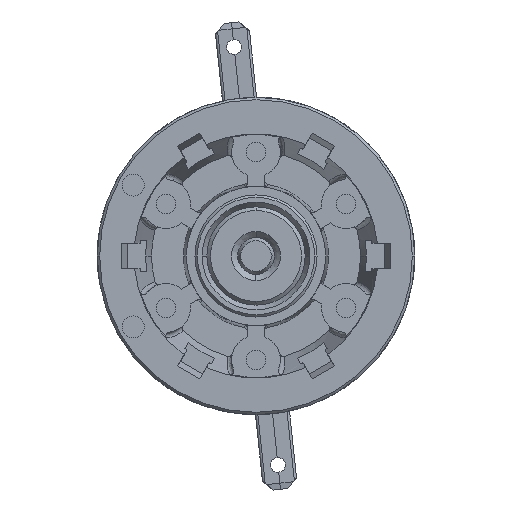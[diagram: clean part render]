
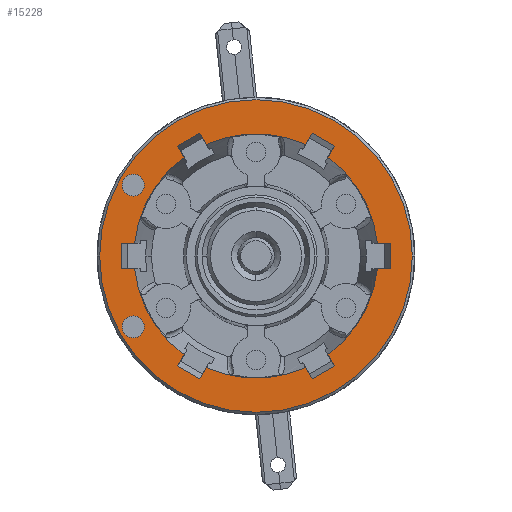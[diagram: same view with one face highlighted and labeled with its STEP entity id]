
A CAD part, left-side view. The second image highlights one B-rep face of the part: STEP entity #15228.
In plain terms, the highlighted planar face has unit normal (-1, 0, 0).
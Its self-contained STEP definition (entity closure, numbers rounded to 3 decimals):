
#5106=CARTESIAN_POINT('',(-1.6,9.945,1.05));
#5116=CARTESIAN_POINT('',(-1.6,0.,0.));
#5117=DIRECTION('',(1.,0.,0.));
#5118=DIRECTION('',(0.,0.994,0.105));
#5119=AXIS2_PLACEMENT_3D('',#5116,#5117,#5118);
#5170=CARTESIAN_POINT('',(-1.6,4.063,9.137));
#5180=CARTESIAN_POINT('',(-1.6,0.,0.));
#5181=DIRECTION('',(1.,0.,0.));
#5182=DIRECTION('',(0.,0.406,0.914));
#5183=AXIS2_PLACEMENT_3D('',#5180,#5181,#5182);
#5234=CARTESIAN_POINT('',(-1.6,-5.882,8.087));
#5244=CARTESIAN_POINT('',(-1.6,0.,0.));
#5245=DIRECTION('',(1.,0.,0.));
#5246=DIRECTION('',(0.,-0.588,0.809));
#5247=AXIS2_PLACEMENT_3D('',#5244,#5245,#5246);
#5308=CARTESIAN_POINT('',(-1.6,0.,0.));
#5309=DIRECTION('',(-1.,0.,0.));
#5310=DIRECTION('',(0.,0.994,-0.105));
#5311=AXIS2_PLACEMENT_3D('',#5308,#5309,#5310);
#5321=CARTESIAN_POINT('',(-1.6,9.945,-1.05));
#5448=CARTESIAN_POINT('',(-1.6,-9.945,-1.05));
#5458=CARTESIAN_POINT('',(-1.6,0.,0.));
#5459=DIRECTION('',(-1.,0.,0.));
#5460=DIRECTION('',(0.,-0.588,-0.809));
#5461=AXIS2_PLACEMENT_3D('',#5458,#5459,#5460);
#5512=CARTESIAN_POINT('',(-1.6,-4.063,-9.137));
#5522=CARTESIAN_POINT('',(-1.6,0.,0.));
#5523=DIRECTION('',(-1.,0.,0.));
#5524=DIRECTION('',(0.,0.406,-0.914));
#5525=AXIS2_PLACEMENT_3D('',#5522,#5523,#5524);
#5593=CARTESIAN_POINT('',(-1.6,0.,0.));
#5594=DIRECTION('',(-1.,0.,0.));
#5595=DIRECTION('',(0.,1.,0.));
#5596=AXIS2_PLACEMENT_3D('',#5593,#5594,#5595);
#5601=CARTESIAN_POINT('',(-1.6,0.,0.));
#5602=DIRECTION('',(-1.,0.,0.));
#5603=DIRECTION('',(0.,-1.,0.));
#5604=AXIS2_PLACEMENT_3D('',#5601,#5602,#5603);
#5609=CARTESIAN_POINT('',(-1.6,10.05,5.8));
#5610=DIRECTION('',(-1.,0.,0.));
#5611=DIRECTION('',(0.,0.,1.));
#5612=AXIS2_PLACEMENT_3D('',#5609,#5610,#5611);
#5617=CARTESIAN_POINT('',(-1.6,10.05,5.8));
#5618=DIRECTION('',(-1.,0.,0.));
#5619=DIRECTION('',(0.,0.,-1.));
#5620=AXIS2_PLACEMENT_3D('',#5617,#5618,#5619);
#5625=CARTESIAN_POINT('',(-1.6,10.05,-5.8));
#5626=DIRECTION('',(-1.,0.,0.));
#5627=DIRECTION('',(0.,0.,1.));
#5628=AXIS2_PLACEMENT_3D('',#5625,#5626,#5627);
#5633=CARTESIAN_POINT('',(-1.6,10.05,-5.8));
#5634=DIRECTION('',(-1.,0.,0.));
#5635=DIRECTION('',(0.,0.,-1.));
#5636=AXIS2_PLACEMENT_3D('',#5633,#5634,#5635);
#5641=DIRECTION('',(0.,-0.5,0.866));
#5642=VECTOR('',#5641,1.055);
#5643=CARTESIAN_POINT('',(-1.6,4.591,-10.051));
#5644=LINE('',#5643,#5642);
#5648=DIRECTION('',(0.,-0.5,-0.866));
#5649=VECTOR('',#5648,1.055);
#5650=CARTESIAN_POINT('',(-1.6,-4.063,-9.137));
#5651=LINE('',#5650,#5649);
#5655=DIRECTION('',(0.,0.866,-0.5));
#5656=VECTOR('',#5655,2.1);
#5657=CARTESIAN_POINT('',(-1.6,-6.409,-9.001));
#5658=LINE('',#5657,#5656);
#5662=DIRECTION('',(0.,0.5,0.866));
#5663=VECTOR('',#5662,1.055);
#5664=CARTESIAN_POINT('',(-1.6,-6.409,-9.001));
#5665=LINE('',#5664,#5663);
#5669=DIRECTION('',(0.,-1.,0.));
#5670=VECTOR('',#5669,1.055);
#5671=CARTESIAN_POINT('',(-1.6,-9.945,-1.05));
#5672=LINE('',#5671,#5670);
#5676=DIRECTION('',(0.,0.,-1.));
#5677=VECTOR('',#5676,2.1);
#5678=CARTESIAN_POINT('',(-1.6,-11.,1.05));
#5679=LINE('',#5678,#5677);
#5683=DIRECTION('',(0.,1.,0.));
#5684=VECTOR('',#5683,1.055);
#5685=CARTESIAN_POINT('',(-1.6,-11.,1.05));
#5686=LINE('',#5685,#5684);
#5690=DIRECTION('',(0.,-0.5,0.866));
#5691=VECTOR('',#5690,1.055);
#5692=CARTESIAN_POINT('',(-1.6,-5.882,8.087));
#5693=LINE('',#5692,#5691);
#5697=DIRECTION('',(0.,-0.866,-0.5));
#5698=VECTOR('',#5697,2.1);
#5699=CARTESIAN_POINT('',(-1.6,-4.591,10.051));
#5700=LINE('',#5699,#5698);
#5704=DIRECTION('',(0.,0.5,-0.866));
#5705=VECTOR('',#5704,1.055);
#5706=CARTESIAN_POINT('',(-1.6,-4.591,10.051));
#5707=LINE('',#5706,#5705);
#5711=DIRECTION('',(0.,0.5,0.866));
#5712=VECTOR('',#5711,1.055);
#5713=CARTESIAN_POINT('',(-1.6,4.063,9.137));
#5714=LINE('',#5713,#5712);
#5718=DIRECTION('',(0.,-0.866,0.5));
#5719=VECTOR('',#5718,2.1);
#5720=CARTESIAN_POINT('',(-1.6,6.409,9.001));
#5721=LINE('',#5720,#5719);
#5725=DIRECTION('',(0.,-0.5,-0.866));
#5726=VECTOR('',#5725,1.055);
#5727=CARTESIAN_POINT('',(-1.6,6.409,9.001));
#5728=LINE('',#5727,#5726);
#5732=DIRECTION('',(0.,1.,0.));
#5733=VECTOR('',#5732,1.055);
#5734=CARTESIAN_POINT('',(-1.6,9.945,1.05));
#5735=LINE('',#5734,#5733);
#5739=DIRECTION('',(0.,0.,1.));
#5740=VECTOR('',#5739,2.1);
#5741=CARTESIAN_POINT('',(-1.6,11.,-1.05));
#5742=LINE('',#5741,#5740);
#5746=DIRECTION('',(0.,-1.,0.));
#5747=VECTOR('',#5746,1.055);
#5748=CARTESIAN_POINT('',(-1.6,11.,-1.05));
#5749=LINE('',#5748,#5747);
#5753=DIRECTION('',(0.,0.5,-0.866));
#5754=VECTOR('',#5753,1.055);
#5755=CARTESIAN_POINT('',(-1.6,5.882,-8.087));
#5756=LINE('',#5755,#5754);
#5760=DIRECTION('',(0.,0.866,0.5));
#5761=VECTOR('',#5760,2.1);
#5762=CARTESIAN_POINT('',(-1.6,4.591,-10.051));
#5763=LINE('',#5762,#5761);
#9136=CARTESIAN_POINT('',(-1.6,12.8,0.));
#9137=CARTESIAN_POINT('',(-1.6,-12.8,0.));
#9138=VERTEX_POINT('',#9136);
#9139=VERTEX_POINT('',#9137);
#9152=CARTESIAN_POINT('',(-1.6,10.05,6.7));
#9153=CARTESIAN_POINT('',(-1.6,10.05,4.9));
#9154=VERTEX_POINT('',#9152);
#9155=VERTEX_POINT('',#9153);
#9156=CARTESIAN_POINT('',(-1.6,10.05,-4.9));
#9157=CARTESIAN_POINT('',(-1.6,10.05,-6.7));
#9158=VERTEX_POINT('',#9156);
#9159=VERTEX_POINT('',#9157);
#9386=VERTEX_POINT('',#5106);
#9387=VERTEX_POINT('',#5321);
#9388=CARTESIAN_POINT('',(-1.6,11.,-1.05));
#9389=VERTEX_POINT('',#9388);
#9390=CARTESIAN_POINT('',(-1.6,11.,1.05));
#9391=VERTEX_POINT('',#9390);
#9476=CARTESIAN_POINT('',(-1.6,5.882,8.087));
#9477=VERTEX_POINT('',#9476);
#9482=VERTEX_POINT('',#5170);
#9483=CARTESIAN_POINT('',(-1.6,6.409,9.001));
#9484=VERTEX_POINT('',#9483);
#9485=CARTESIAN_POINT('',(-1.6,4.591,10.051));
#9486=VERTEX_POINT('',#9485);
#9491=CARTESIAN_POINT('',(-1.6,-4.063,9.137));
#9492=VERTEX_POINT('',#9491);
#9497=VERTEX_POINT('',#5234);
#9498=CARTESIAN_POINT('',(-1.6,-4.591,10.051));
#9499=VERTEX_POINT('',#9498);
#9500=CARTESIAN_POINT('',(-1.6,-6.409,9.001));
#9501=VERTEX_POINT('',#9500);
#9508=CARTESIAN_POINT('',(-1.6,-9.945,1.05));
#9509=VERTEX_POINT('',#9508);
#9518=VERTEX_POINT('',#5448);
#9519=CARTESIAN_POINT('',(-1.6,-11.,1.05));
#9520=VERTEX_POINT('',#9519);
#9521=CARTESIAN_POINT('',(-1.6,-11.,-1.05));
#9522=VERTEX_POINT('',#9521);
#9527=CARTESIAN_POINT('',(-1.6,-5.882,-8.087));
#9528=VERTEX_POINT('',#9527);
#9533=VERTEX_POINT('',#5512);
#9534=CARTESIAN_POINT('',(-1.6,-6.409,-9.001));
#9535=VERTEX_POINT('',#9534);
#9536=CARTESIAN_POINT('',(-1.6,-4.591,-10.051));
#9537=VERTEX_POINT('',#9536);
#9542=CARTESIAN_POINT('',(-1.6,5.882,-8.087));
#9543=VERTEX_POINT('',#9542);
#9544=CARTESIAN_POINT('',(-1.6,4.063,-9.137));
#9545=VERTEX_POINT('',#9544);
#9550=CARTESIAN_POINT('',(-1.6,4.591,-10.051));
#9551=VERTEX_POINT('',#9550);
#9552=CARTESIAN_POINT('',(-1.6,6.409,-9.001));
#9553=VERTEX_POINT('',#9552);
#15163=CARTESIAN_POINT('',(-1.6,0.,0.));
#15164=DIRECTION('',(1.,0.,0.));
#15165=DIRECTION('',(0.,-1.,0.));
#15166=AXIS2_PLACEMENT_3D('',#15163,#15164,#15165);
#15167=PLANE('',#15166);
#15169=ORIENTED_EDGE('',*,*,#15168,.F.);
#15171=ORIENTED_EDGE('',*,*,#15170,.F.);
#15172=EDGE_LOOP('',(#15169,#15171));
#15173=FACE_OUTER_BOUND('',#15172,.F.);
#15175=ORIENTED_EDGE('',*,*,#15174,.T.);
#15177=ORIENTED_EDGE('',*,*,#15176,.T.);
#15178=EDGE_LOOP('',(#15175,#15177));
#15179=FACE_BOUND('',#15178,.F.);
#15181=ORIENTED_EDGE('',*,*,#15180,.T.);
#15183=ORIENTED_EDGE('',*,*,#15182,.T.);
#15184=EDGE_LOOP('',(#15181,#15183));
#15185=FACE_BOUND('',#15184,.F.);
#15186=ORIENTED_EDGE('',*,*,#15130,.T.);
#15187=ORIENTED_EDGE('',*,*,#15053,.T.);
#15189=ORIENTED_EDGE('',*,*,#15188,.T.);
#15191=ORIENTED_EDGE('',*,*,#15190,.F.);
#15193=ORIENTED_EDGE('',*,*,#15192,.T.);
#15194=ORIENTED_EDGE('',*,*,#15037,.T.);
#15196=ORIENTED_EDGE('',*,*,#15195,.T.);
#15198=ORIENTED_EDGE('',*,*,#15197,.F.);
#15200=ORIENTED_EDGE('',*,*,#15199,.T.);
#15201=ORIENTED_EDGE('',*,*,#14963,.F.);
#15203=ORIENTED_EDGE('',*,*,#15202,.T.);
#15205=ORIENTED_EDGE('',*,*,#15204,.F.);
#15207=ORIENTED_EDGE('',*,*,#15206,.T.);
#15208=ORIENTED_EDGE('',*,*,#14947,.F.);
#15210=ORIENTED_EDGE('',*,*,#15209,.T.);
#15212=ORIENTED_EDGE('',*,*,#15211,.F.);
#15214=ORIENTED_EDGE('',*,*,#15213,.T.);
#15215=ORIENTED_EDGE('',*,*,#14931,.F.);
#15217=ORIENTED_EDGE('',*,*,#15216,.T.);
#15219=ORIENTED_EDGE('',*,*,#15218,.F.);
#15221=ORIENTED_EDGE('',*,*,#15220,.T.);
#15222=ORIENTED_EDGE('',*,*,#14992,.T.);
#15224=ORIENTED_EDGE('',*,*,#15223,.T.);
#15225=ORIENTED_EDGE('',*,*,#15147,.F.);
#15226=EDGE_LOOP('',(#15186,#15187,#15189,#15191,#15193,#15194,#15196,#15198,
#15200,#15201,#15203,#15205,#15207,#15208,#15210,#15212,#15214,#15215,#15217,
#15219,#15221,#15222,#15224,#15225));
#15227=FACE_BOUND('',#15226,.F.);
#15228=ADVANCED_FACE('',(#15173,#15179,#15185,#15227),#15167,.F.);
#5120=CIRCLE('',#5119,10.);
#5184=CIRCLE('',#5183,10.);
#5248=CIRCLE('',#5247,10.);
#5312=CIRCLE('',#5311,10.);
#5462=CIRCLE('',#5461,10.);
#5526=CIRCLE('',#5525,10.);
#5597=CIRCLE('',#5596,12.8);
#5605=CIRCLE('',#5604,12.8);
#5613=CIRCLE('',#5612,0.9);
#5621=CIRCLE('',#5620,0.9);
#5629=CIRCLE('',#5628,0.9);
#5637=CIRCLE('',#5636,0.9);
#14931=EDGE_CURVE('',#9386,#9477,#5120,.T.);
#14947=EDGE_CURVE('',#9482,#9492,#5184,.T.);
#14963=EDGE_CURVE('',#9497,#9509,#5248,.T.);
#14992=EDGE_CURVE('',#9387,#9543,#5312,.T.);
#15037=EDGE_CURVE('',#9528,#9518,#5462,.T.);
#15053=EDGE_CURVE('',#9545,#9533,#5526,.T.);
#15130=EDGE_CURVE('',#9551,#9545,#5644,.T.);
#15147=EDGE_CURVE('',#9551,#9553,#5763,.T.);
#15168=EDGE_CURVE('',#9138,#9139,#5597,.T.);
#15170=EDGE_CURVE('',#9139,#9138,#5605,.T.);
#15174=EDGE_CURVE('',#9154,#9155,#5613,.T.);
#15176=EDGE_CURVE('',#9155,#9154,#5621,.T.);
#15180=EDGE_CURVE('',#9158,#9159,#5629,.T.);
#15182=EDGE_CURVE('',#9159,#9158,#5637,.T.);
#15188=EDGE_CURVE('',#9533,#9537,#5651,.T.);
#15190=EDGE_CURVE('',#9535,#9537,#5658,.T.);
#15192=EDGE_CURVE('',#9535,#9528,#5665,.T.);
#15195=EDGE_CURVE('',#9518,#9522,#5672,.T.);
#15197=EDGE_CURVE('',#9520,#9522,#5679,.T.);
#15199=EDGE_CURVE('',#9520,#9509,#5686,.T.);
#15202=EDGE_CURVE('',#9497,#9501,#5693,.T.);
#15204=EDGE_CURVE('',#9499,#9501,#5700,.T.);
#15206=EDGE_CURVE('',#9499,#9492,#5707,.T.);
#15209=EDGE_CURVE('',#9482,#9486,#5714,.T.);
#15211=EDGE_CURVE('',#9484,#9486,#5721,.T.);
#15213=EDGE_CURVE('',#9484,#9477,#5728,.T.);
#15216=EDGE_CURVE('',#9386,#9391,#5735,.T.);
#15218=EDGE_CURVE('',#9389,#9391,#5742,.T.);
#15220=EDGE_CURVE('',#9389,#9387,#5749,.T.);
#15223=EDGE_CURVE('',#9543,#9553,#5756,.T.);
